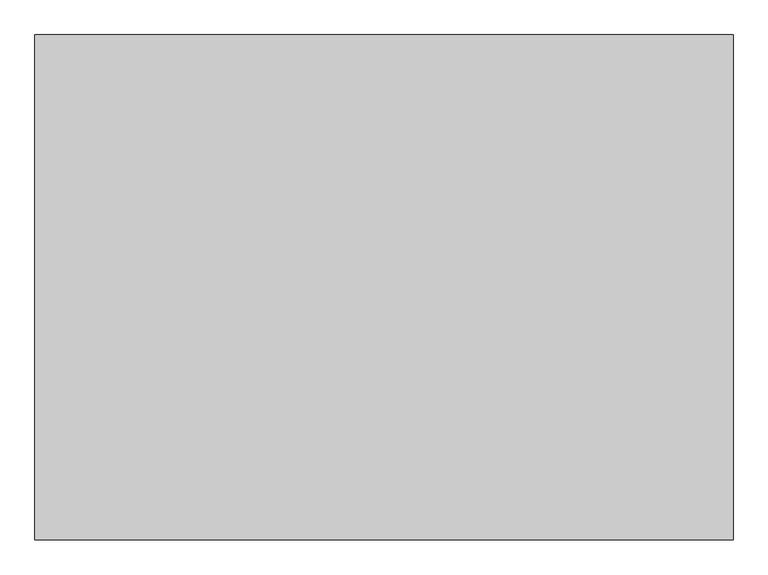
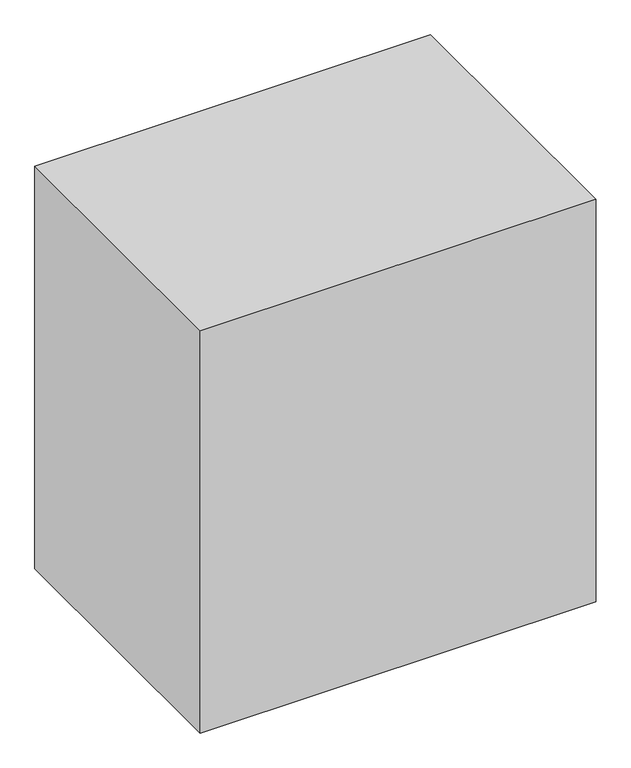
"""IFC4 building model written with IfcOpenShell, lengths in millimetres: proxy geometry, サービススペース : サービススペース."""

import ifcopenshell
import ifcopenshell.guid

model = None  # the IFC model being written
_history = None  # IfcOwnerHistory: only IFC2X3 demands one
_inside = {}  # id of a spatial element -> (the spatial element, [elements in it])
_under = {}  # id of a project, library or spatial element -> (it, [spatial elements below it])
_declared = {}  # id of a project -> (the project, [libraries it declares])
_typed = {}  # id of a type object -> (the type object, [elements of that type])
_made_of = {}  # id of a material, layer set ... -> (it, [elements and type objects made of it])


def new_model(schema):
    """Start an empty IFC model of exactly this schema.

    Asked for "IFC4X3", IfcOpenShell would pick the latest addendum, in which some entities
    have other attributes; the version numbers below select the first issue.
    IFC2X3 requires an IfcOwnerHistory on every rooted entity: one is made here for all.
    """
    global model, _history
    if schema == "IFC4X3":
        model = ifcopenshell.file(schema_version=(4, 3, 0, 0))
    else:
        model = ifcopenshell.file(schema=schema)
    _inside.clear()
    _under.clear()
    _declared.clear()
    _typed.clear()
    _made_of.clear()
    _history = None
    if model.schema == "IFC2X3":
        org = make("IfcOrganization", Name="unknown")
        user = make(
            "IfcPersonAndOrganization",
            ThePerson=make("IfcPerson", FamilyName="unknown"),
            TheOrganization=org,
        )
        app = make(
            "IfcApplication",
            ApplicationDeveloper=org,
            Version="unknown",
            ApplicationFullName="unknown",
            ApplicationIdentifier="unknown",
        )
        _history = make(
            "IfcOwnerHistory",
            OwningUser=user,
            OwningApplication=app,
            ChangeAction="ADDED",
            CreationDate=0,
        )
    return model


def make(cls, **values):
    """One entity of the class cls with the attributes given. An attribute that is None is left unset."""
    return model.create_entity(
        cls, **{name: value for name, value in values.items() if value is not None}
    )


def rooted(cls, **values):
    """An entity with a GlobalId (a new one), such as an element, a storey or a relation."""
    return make(cls, GlobalId=ifcopenshell.guid.new(), OwnerHistory=_history, **values)


def si_unit(unit_type, name, prefix=None):
    """IfcSIUnit, for example si_unit("LENGTHUNIT", "METRE", prefix="MILLI")."""
    return make("IfcSIUnit", UnitType=unit_type, Prefix=prefix, Name=name)


def assignment(units):
    """IfcUnitAssignment: the units of a project."""
    return None if units is None else make("IfcUnitAssignment", Units=units)


def point(xyz):
    """IfcCartesianPoint."""
    return None if xyz is None else make("IfcCartesianPoint", Coordinates=xyz)


def direction(xyz):
    """IfcDirection."""
    return None if xyz is None else make("IfcDirection", DirectionRatios=xyz)


def frame(location, z_axis=None, x_axis=None):
    """IfcAxis2Placement3D, a coordinate frame: its origin and axes. An axis left out is left unset."""
    return make(
        "IfcAxis2Placement3D",
        Location=point(location),
        Axis=direction(z_axis),
        RefDirection=direction(x_axis),
    )


def origin():
    """The frame at (0, 0, 0) with its axes left unset."""
    return frame((0.0, 0.0, 0.0))


def place(relative_to, where):
    """IfcLocalPlacement: puts the frame where relative to a parent placement (None: the world)."""
    return make(
        "IfcLocalPlacement", PlacementRelTo=relative_to, RelativePlacement=where
    )


def context(
    kind, dimensions, precision=None, world=None, true_north=None, identifier=None
):
    """IfcGeometricRepresentationContext, for example the 3D "Model" context."""
    return make(
        "IfcGeometricRepresentationContext",
        ContextIdentifier=identifier,
        ContextType=kind,
        CoordinateSpaceDimension=dimensions,
        Precision=precision,
        WorldCoordinateSystem=world,
        TrueNorth=true_north,
    )


def project(units=None, contexts=None):
    """IfcProject with its units and contexts."""
    return rooted(
        "IfcProject",
        Name="project",
        RepresentationContexts=contexts,
        UnitsInContext=assignment(units),
    )


def spatial(cls, under=None, at=None, **own):
    """A site, building, storey or space (cls), placed at a placement, below another one or the project."""
    s = rooted(cls, ObjectPlacement=at, **own)
    if under is not None:
        _under.setdefault(under.id(), (under, []))[1].append(s)
    return s


def polyline(points):
    """IfcPolyline through the points."""
    return make("IfcPolyline", Points=[point(p) for p in points])


def outline(outer, holes=None, kind="AREA"):
    """IfcArbitraryClosedProfileDef: a profile drawn as a closed curve; with holes, ...WithVoids."""
    if holes is None:
        return make("IfcArbitraryClosedProfileDef", ProfileType=kind, OuterCurve=outer)
    return make(
        "IfcArbitraryProfileDefWithVoids",
        ProfileType=kind,
        OuterCurve=outer,
        InnerCurves=holes,
    )


def extrude(swept, where, along, depth):
    """IfcExtrudedAreaSolid: the profile swept, set in the frame where, extruded along a direction by depth."""
    return make(
        "IfcExtrudedAreaSolid",
        SweptArea=swept,
        Position=where,
        ExtrudedDirection=direction(along),
        Depth=depth,
    )


def shape(context_of_items, identifier, shape_type, items):
    """IfcShapeRepresentation: the items that make up one representation, for example the "Body"."""
    return make(
        "IfcShapeRepresentation",
        ContextOfItems=context_of_items,
        RepresentationIdentifier=identifier,
        RepresentationType=shape_type,
        Items=items,
    )


def source(mapping_origin, context_of_items, identifier, shape_type, items):
    """IfcRepresentationMap: a shape defined once, which mapped items show again and again."""
    return make(
        "IfcRepresentationMap",
        MappingOrigin=mapping_origin,
        MappedRepresentation=shape(context_of_items, identifier, shape_type, items),
    )


def transform(
    local_origin,
    x_axis=None,
    y_axis=None,
    z_axis=None,
    scale=None,
    scale2=None,
    scale3=None,
    uniform=True,
):
    """IfcCartesianTransformationOperator3D, or its non-uniform kind. x_axis, y_axis, z_axis: its Axis1, 2, 3."""
    if uniform:
        return make(
            "IfcCartesianTransformationOperator3D",
            Axis1=direction(x_axis),
            Axis2=direction(y_axis),
            LocalOrigin=point(local_origin),
            Scale=scale,
            Axis3=direction(z_axis),
        )
    return make(
        "IfcCartesianTransformationOperator3DnonUniform",
        Axis1=direction(x_axis),
        Axis2=direction(y_axis),
        LocalOrigin=point(local_origin),
        Scale=scale,
        Axis3=direction(z_axis),
        Scale2=scale2,
        Scale3=scale3,
    )


def mapped(mapping_source, mapping_target):
    """IfcMappedItem: shows the shape of a source again, moved by a transform."""
    return make(
        "IfcMappedItem", MappingSource=mapping_source, MappingTarget=mapping_target
    )


def made_of(thing, what):
    """Note that an element or type object is made of a material, layer set ...; save() writes the relation."""
    if what is not None:
        _made_of.setdefault(what.id(), (what, []))[1].append(thing)
    return thing


def element(
    cls,
    number,
    at=None,
    inside=None,
    cuts=None,
    type_object=None,
    material=None,
    context=None,
    identifier="Body",
    shape_type=None,
    held_by="IfcProductDefinitionShape",
    body=None,
    shapes=None,
    **own,
):
    """One element of the class cls, such as IfcWall. Its Tag is "e" and its number.

    at: its placement. inside: the storey or other place that contains it. cuts: it is an
    opening in that element (IfcRelVoidsElement). A single representation is given by context,
    identifier, shape_type and body (its items); several are given by shapes. held_by: the class
    of the entity that holds the representations. save() writes the other relations.
    """
    e = rooted(cls, Tag="e%d" % number, ObjectPlacement=at, **own)
    if body is not None:
        shapes = [shape(context, identifier, shape_type, body)]
    if shapes is not None:
        e.Representation = make(held_by, Representations=shapes)
    if inside is not None:
        _inside.setdefault(inside.id(), (inside, []))[1].append(e)
    if cuts is not None:
        rooted(
            "IfcRelVoidsElement", RelatingBuildingElement=cuts, RelatedOpeningElement=e
        )
    if type_object is not None:
        _typed.setdefault(type_object.id(), (type_object, []))[1].append(e)
    return made_of(e, material)


def aggregate(whole, parts):
    """IfcRelAggregates: a whole, such as a stair, and the parts it consists of."""
    return rooted("IfcRelAggregates", RelatingObject=whole, RelatedObjects=parts)


def save(model, path):
    """Write the relations noted so far, then the file.

    IfcRelAggregates (storeys below a building ...), IfcRelContainedInSpatialStructure (elements
    in a storey), IfcRelDefinesByType, IfcRelAssociatesMaterial and IfcRelDeclares: one each for
    every whole, place, type object, material and project.
    """
    for whole, parts in _under.values():
        aggregate(whole, parts)
    for where, things in _inside.values():
        rooted(
            "IfcRelContainedInSpatialStructure",
            RelatedElements=things,
            RelatingStructure=where,
        )
    for kind, things in _typed.values():
        rooted("IfcRelDefinesByType", RelatedObjects=things, RelatingType=kind)
    for what, things in _made_of.values():
        rooted("IfcRelAssociatesMaterial", RelatedObjects=things, RelatingMaterial=what)
    for by, libraries in _declared.values():
        rooted("IfcRelDeclares", RelatingContext=by, RelatedDefinitions=libraries)
    model.write(path)


def specialty_equipment_83033e40(model_context):
    return source(origin(), model_context, "Body", "SweptSolid", [
        extrude(outline(polyline([(670.0, 485.0), (670.0, -485.0), (-670.0, -485.0), (-670.0, 485.0), (670.0, 485.0)])), frame((0.0, 0.0, -720.0), z_axis=(0.0, 0.0, 1.0), x_axis=(1.0, 0.0, 0.0)), (0.0, 0.0, 1.0), 1440.0),
    ])


if __name__ == "__main__":
    model = new_model("IFC4")
    model_context = context("Model", 3, world=origin())
    ifc_project = project(units=[si_unit("LENGTHUNIT", "METRE", prefix="MILLI")], contexts=[model_context])
    site = spatial("IfcSite", under=ifc_project)
    building = spatial("IfcBuilding", under=site)
    placement = place(None, origin())
    specialty_equipment_shape = specialty_equipment_83033e40(model_context)
    element("IfcBuildingElementProxy", 1, Name="サービススペース : サービススペース", ObjectType="サービススペース : サービススペース", at=placement, inside=building, context=model_context, shape_type="MappedRepresentation", body=[
        mapped(specialty_equipment_shape, transform((0.0, 0.0, 0.0), x_axis=(1.0, 0.0, 0.0), y_axis=(0.0, 1.0, 0.0), z_axis=(0.0, 0.0, 1.0))),
    ])
    save(model, "model.ifc")
